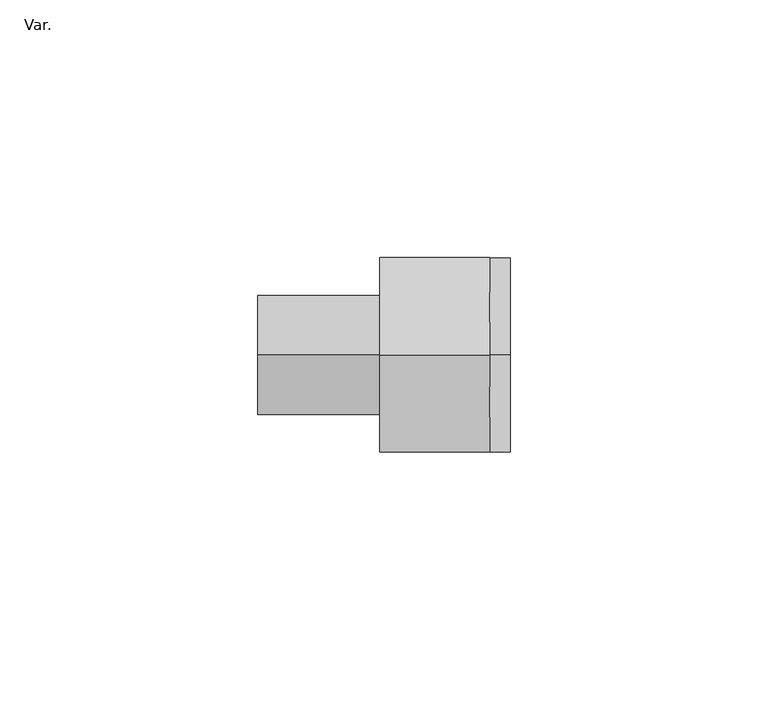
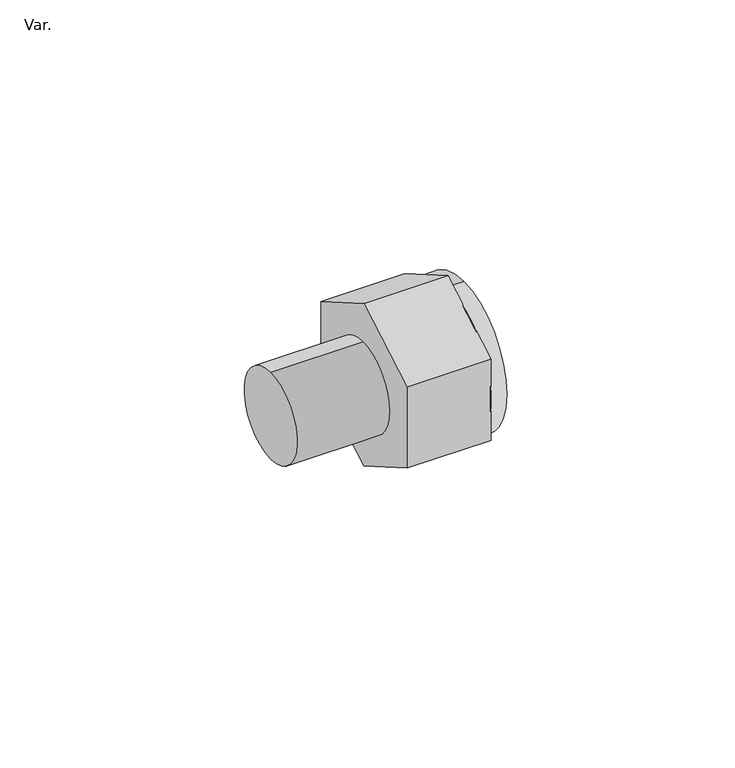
"""IFC4 building model written with IfcOpenShell, lengths in millimetres: pipe fitting geometry, AmancoWavin_Unionesdetubería_TigrisFlexZNoUsarRoscaHembraMachoManifold(nested) : Var.."""

from ifc_helpers import new_model, si_unit, point, frame, frame_2d, origin, origin_2d, place, context, project, spatial, polyline, circle_curve, trimmed, segment, composite_curve, outline, extrude, source, transform, mapped, element, save
from ifc_brep_helpers import plane_surface, revolved_surface, advanced_brep


def var_e74b5a52(model_context):
    return source(origin(), model_context, "Body", "SolidModel", [
        extrude(outline(composite_curve([segment(trimmed(circle_curve(frame_2d((0.0114737, -0.0050781)), 18.85), [point((0.0114737, 18.8449219))], [point((0.0114737, -18.8550781))], False, "CARTESIAN"), True, "CONTINUOUS"), segment(trimmed(circle_curve(frame_2d((0.0114737, -0.0050781)), 18.85), [point((0.0114737, -18.8550781))], [point((0.0114737, 18.8449219))], False, "CARTESIAN"), True, "CONTINUOUS")], self_intersect=False), holes=[composite_curve([segment(trimmed(circle_curve(frame_2d((1e-06, 0.0)), 13.25), [point((1e-06, 13.25))], [point((1e-06, -13.25))], True, "CARTESIAN"), True, "CONTINUOUS"), segment(trimmed(circle_curve(frame_2d((1e-06, 0.0)), 13.25), [point((1e-06, -13.25))], [point((1e-06, 13.25))], True, "CARTESIAN"), True, "CONTINUOUS")], self_intersect=False)]), frame((44.975, 0.0, 0.0), z_axis=(1.0, 0.0, 0.0), x_axis=(0.0, 1.0, 0.0)), (0.0, 0.0, 1.0), 4.0),
        advanced_brep(
        [(44.975, 18.8793538, -10.9), (44.975, 18.8793538, 10.9), (44.975, 0.0, 21.8), (44.975, -18.8793538, 10.9), (44.975, -18.8793538, -10.9), (44.975, 0.0, -21.8), (44.975, 1e-06, -13.25), (44.975, 1e-06, 13.25), (23.675, 18.8793538, -10.9), (23.675, 0.0, -21.8), (23.675, -18.8793538, -10.9), (23.675, -18.8793538, 10.9), (23.675, 0.0, 21.8), (23.675, 18.8793538, 10.9), (27.675, 1e-06, -13.25), (27.675, 1e-06, 13.25)],
        [
            (0, 1),
            (1, 2),
            (2, 3),
            (3, 4),
            (4, 5),
            (5, 0),
            (6, 7, circle_curve(frame((44.975, 1e-06, 0.0), z_axis=(-1.0, 0.0, 0.0), x_axis=(0.0, 0.0, 1.0)), 13.25)),
            (7, 6, circle_curve(frame((44.975, 1e-06, 0.0), z_axis=(-1.0, 0.0, 0.0), x_axis=(0.0, 0.0, 1.0)), 13.25)),
            (8, 9),
            (9, 10),
            (10, 11),
            (11, 12),
            (12, 13),
            (13, 8),
            (0, 8),
            (13, 1),
            (12, 2),
            (11, 3),
            (10, 4),
            (9, 5),
            (14, 15, circle_curve(frame((27.675, 1e-06, 0.0), z_axis=(1.0, 0.0, 0.0), x_axis=(0.0, 0.0, 1.0)), 13.25)),
            (15, 14, circle_curve(frame((27.675, 1e-06, 0.0), z_axis=(1.0, 0.0, 0.0), x_axis=(0.0, 0.0, 1.0)), 13.25)),
            (15, 7),
            (6, 14),
        ],
        [
            plane_surface(frame((44.975, 18.8793538, 10.9), z_axis=(1.0, 0.0, 0.0), x_axis=(0.0, 0.0, 1.0))),
            plane_surface(frame((23.675, 18.8793538, 10.9), z_axis=(-1.0, 0.0, 0.0), x_axis=(0.0, 0.0, -1.0))),
            plane_surface(frame((44.975, 18.8793538, -10.9), z_axis=(0.0, 1.0, 0.0), x_axis=(-1.0, 0.0, 0.0))),
            plane_surface(frame((44.975, 18.8793538, 10.9), z_axis=(0.0, 0.49999999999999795, 0.8660254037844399), x_axis=(-1.0, 0.0, 0.0))),
            plane_surface(frame((44.975, 0.0, 21.8), z_axis=(0.0, -0.5000000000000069, 0.8660254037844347), x_axis=(-1.0, 0.0, 0.0))),
            plane_surface(frame((44.975, -18.8793538, 10.9), z_axis=(0.0, -1.0, 0.0), x_axis=(-1.0, 0.0, 0.0))),
            plane_surface(frame((44.975, -18.8793538, -10.9), z_axis=(0.0, -0.4999999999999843, -0.8660254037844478), x_axis=(-1.0, 0.0, 0.0))),
            plane_surface(frame((44.975, 0.0, -21.8), z_axis=(0.0, 0.5000000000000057, -0.8660254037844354), x_axis=(-1.0, 0.0, 0.0))),
            plane_surface(frame((27.675, 1e-06, 13.25), z_axis=(1.0, 0.0, 0.0), x_axis=(0.0, 1.0, 0.0))),
            revolved_surface(polyline([(27.675, 1e-06, 13.25), (44.975, 1e-06, 13.25)]), (48.975, 1e-06, 0.0), (-1.0, 0.0, 0.0)),
        ],
        [
            (0, [[1, 2, 3, 4, 5, 6], [7, 8]]),
            (1, [[9, 10, 11, 12, 13, 14]]),
            (2, [[-1, 15, -14, 16]]),
            (3, [[-2, -16, -13, 17]]),
            (4, [[-3, -17, -12, 18]]),
            (5, [[-4, -18, -11, 19]]),
            (6, [[-5, -19, -10, 20]]),
            (7, [[-6, -20, -9, -15]]),
            (8, [[21, 22]]),
            (9, [[-22, 23, -7, 24]]),
            (9, [[-21, -24, -8, -23]]),
        ],
    ),
        extrude(outline(composite_curve([segment(trimmed(circle_curve(origin_2d(), 11.6), [point((0.0, -11.6))], [point((0.0, 11.6))], False, "CARTESIAN"), True, "CONTINUOUS"), segment(trimmed(circle_curve(origin_2d(), 11.6), [point((0.0, 11.6))], [point((0.0, -11.6))], False, "CARTESIAN"), True, "CONTINUOUS")], self_intersect=False)), frame((0.0, 0.0, 0.0), z_axis=(1.0, 0.0, 0.0), x_axis=(0.0, 1.0, 0.0)), (0.0, 0.0, 1.0), 23.675),
    ])


if __name__ == "__main__":
    model = new_model("IFC4")
    model_context = context("Model", 3, world=origin())
    ifc_project = project(units=[si_unit("LENGTHUNIT", "METRE", prefix="MILLI")], contexts=[model_context])
    site = spatial("IfcSite", under=ifc_project)
    building = spatial("IfcBuilding", under=site)
    placement = place(None, origin())
    var_shape = var_e74b5a52(model_context)
    element("IfcPipeFitting", 1, ObjectType="AmancoWavin_Unionesdetubería_TigrisFlexZNoUsarRoscaHembraMachoManifold(nested) : Var.", at=placement, inside=building, context=model_context, shape_type="MappedRepresentation", body=[
        mapped(var_shape, transform((0.0, 0.0, 0.0), x_axis=(1.0, 0.0, 0.0), y_axis=(0.0, 1.0, 0.0), z_axis=(0.0, 0.0, 1.0))),
    ])
    save(model, "model.ifc")
